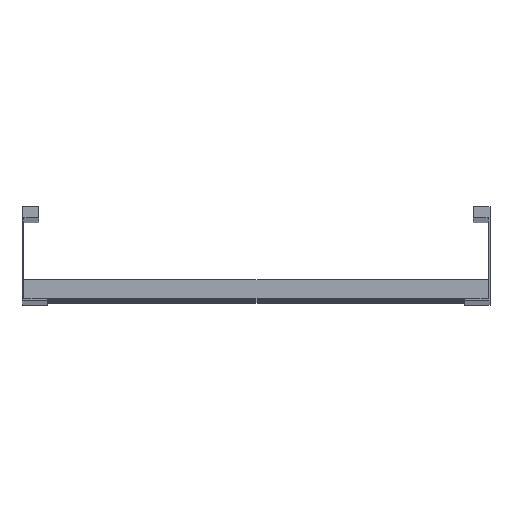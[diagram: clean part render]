
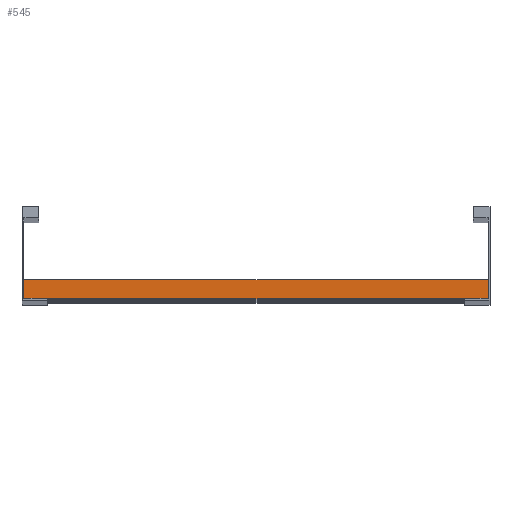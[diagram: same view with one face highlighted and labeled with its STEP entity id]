
A CAD part, top view. The second image highlights one B-rep face of the part: STEP entity #545.
In plain terms, the highlighted planar face has unit normal (0, 0, 1).
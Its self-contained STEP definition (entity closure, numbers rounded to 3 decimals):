
#48 = LINE ( 'NONE', #1468, #349 ) ;
#140 = DIRECTION ( 'NONE',  ( 0., -1., 0. ) ) ;
#155 = CARTESIAN_POINT ( 'NONE',  ( -248., 20., 20.25 ) ) ;
#271 = ORIENTED_EDGE ( 'NONE', *, *, #810, .F. ) ;
#293 = ORIENTED_EDGE ( 'NONE', *, *, #1001, .T. ) ;
#349 = VECTOR ( 'NONE', #772, 1000. ) ;
#369 = LINE ( 'NONE', #499, #1523 ) ;
#434 = EDGE_LOOP ( 'NONE', ( #293, #271, #607, #466 ) ) ;
#461 = DIRECTION ( 'NONE',  ( 0., 1., 0. ) ) ;
#466 = ORIENTED_EDGE ( 'NONE', *, *, #1291, .T. ) ;
#472 = PLANE ( 'NONE',  #1078 ) ;
#499 = CARTESIAN_POINT ( 'NONE',  ( 248., 20., 20.25 ) ) ;
#545 = ADVANCED_FACE ( 'NONE', ( #1157 ), #472, .F. ) ;
#576 = CARTESIAN_POINT ( 'NONE',  ( 248., 20., 20.25 ) ) ;
#607 = ORIENTED_EDGE ( 'NONE', *, *, #860, .F. ) ;
#618 = VECTOR ( 'NONE', #1040, 1000. ) ;
#658 = CARTESIAN_POINT ( 'NONE',  ( 248., 0., 20.25 ) ) ;
#772 = DIRECTION ( 'NONE',  ( -1., 0., 0. ) ) ;
#810 = EDGE_CURVE ( 'NONE', #1498, #1482, #1695, .T. ) ;
#860 = EDGE_CURVE ( 'NONE', #903, #1498, #369, .T. ) ;
#872 = DIRECTION ( 'NONE',  ( 0., 0., -1. ) ) ;
#899 = DIRECTION ( 'NONE',  ( 0., -1., 0. ) ) ;
#903 = VERTEX_POINT ( 'NONE', #1214 ) ;
#1001 = EDGE_CURVE ( 'NONE', #1126, #1482, #1494, .T. ) ;
#1029 = VECTOR ( 'NONE', #140, 1000. ) ;
#1040 = DIRECTION ( 'NONE',  ( -1., 0., 0. ) ) ;
#1078 = AXIS2_PLACEMENT_3D ( 'NONE', #576, #872, #461 ) ;
#1126 = VERTEX_POINT ( 'NONE', #1266 ) ;
#1157 = FACE_OUTER_BOUND ( 'NONE', #434, .T. ) ;
#1184 = CARTESIAN_POINT ( 'NONE',  ( 248., 0., 20.25 ) ) ;
#1214 = CARTESIAN_POINT ( 'NONE',  ( 248., 20., 20.25 ) ) ;
#1266 = CARTESIAN_POINT ( 'NONE',  ( -248., 20., 20.25 ) ) ;
#1291 = EDGE_CURVE ( 'NONE', #903, #1126, #48, .T. ) ;
#1468 = CARTESIAN_POINT ( 'NONE',  ( 248., 20., 20.25 ) ) ;
#1482 = VERTEX_POINT ( 'NONE', #1483 ) ;
#1483 = CARTESIAN_POINT ( 'NONE',  ( -248., 0., 20.25 ) ) ;
#1494 = LINE ( 'NONE', #155, #1029 ) ;
#1498 = VERTEX_POINT ( 'NONE', #658 ) ;
#1523 = VECTOR ( 'NONE', #899, 1000. ) ;
#1695 = LINE ( 'NONE', #1184, #618 ) ;
